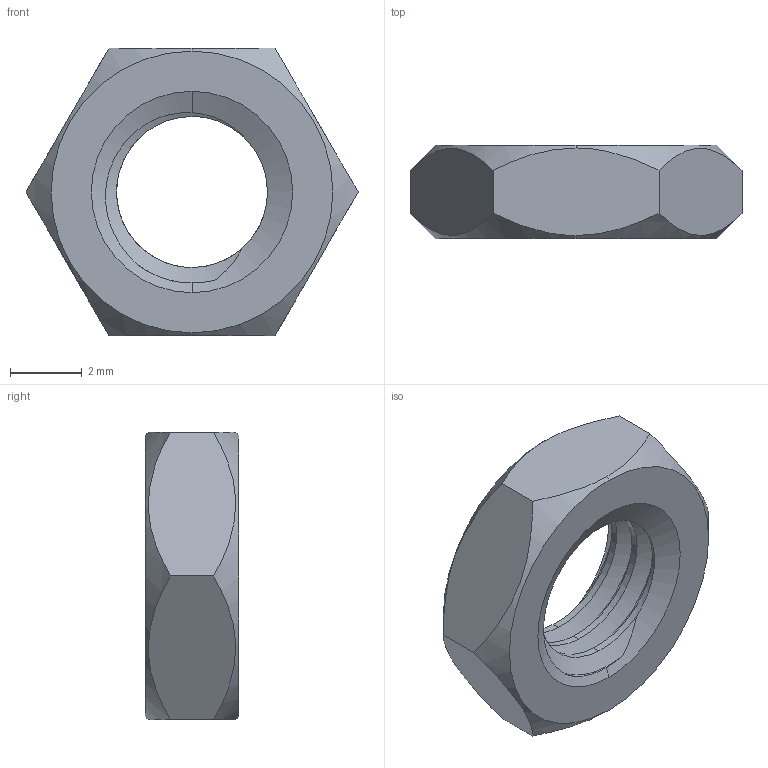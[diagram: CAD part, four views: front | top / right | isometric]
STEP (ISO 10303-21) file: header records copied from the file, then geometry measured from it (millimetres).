
FILE_DESCRIPTION (( 'STEP AP203' ), '1' );
FILE_NAME ('TANM-304-M5.STEP', '2026-08-25T09:13:35', ( '' ), ( '' ), 'SwSTEP 2.0', 'SolidWorks 2020', '' );
FILE_SCHEMA (( 'CONFIG_CONTROL_DESIGN' ));
Length unit declared in the file: millimetre
Products named in the file (1): TANM-304-M5
Bounding box: 9.24 x 2.6 x 8 mm (x, y, z)
Volume: 96.2 mm3; surface area: 192 mm2
Topology: 1 solids, 1 shells, 25 faces, 69 edges, 46 vertices
Faces by surface type: cone 8, plane 8, cylinder 6, bspline 3
Entity records: 1973 total; most frequent: CARTESIAN_POINT 1346, ORIENTED_EDGE 138, DIRECTION 85, EDGE_CURVE 69, VERTEX_POINT 46, AXIS2_PLACEMENT_3D 33, EDGE_LOOP 27, B_SPLINE_CURVE_WITH_KNOTS 26
